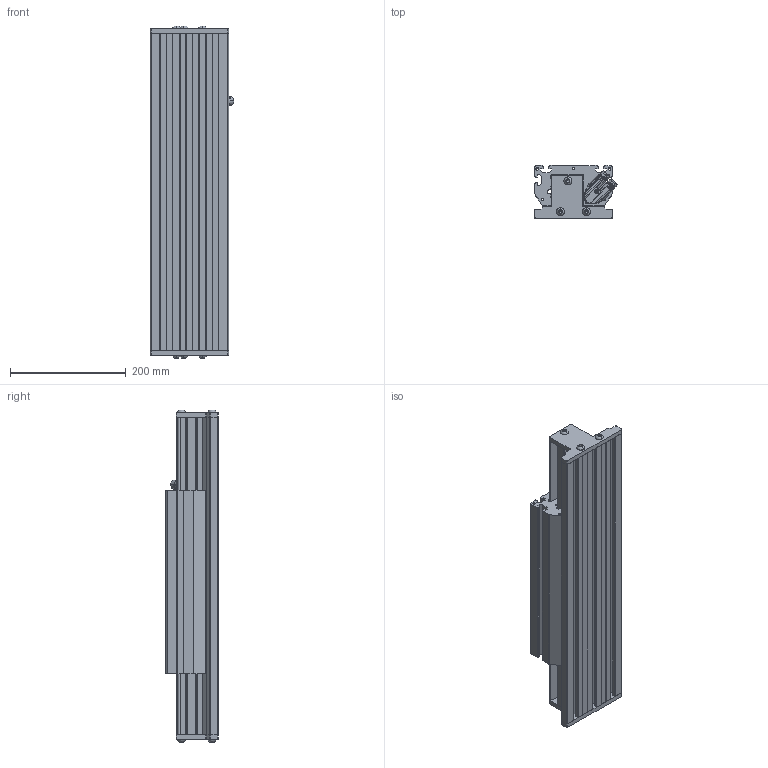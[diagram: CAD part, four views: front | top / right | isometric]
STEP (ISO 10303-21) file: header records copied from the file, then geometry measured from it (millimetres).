
FILE_DESCRIPTION (( 'STEP AP214' ), '1' );
FILE_NAME ('SINADRIVES Linear motor stage MLL20400XS-XX-1-0-ST-00-00564.STEP', '2015-07-06T10:51:31', ( 'Tecnico' ), ( '' ), 'SwSTEP 2.0', 'SolidWorks 2009', '' );
FILE_SCHEMA (( 'AUTOMOTIVE_DESIGN' ));
Length unit declared in the file: millimetre
Products named in the file (7): SINADRIVES PROFILE MLL2XXXX-0548; SINADRIVES CARRIAGE MLL20400XS-1; CARRIAGE MLL20400; Connector power+signal Y-tec 45; SINADRIVES ENDBLOCK MLL2; SINADRIVES ENDBLOCK MLL2-2; SINADRIVES Linear motor stage MLL20400XS-XX-1-0-ST-00-00564
Assembly tree (6 placements, depth 3):
  SINADRIVES Linear motor stage MLL20400XS-XX-1-0-ST-00-00564
    SINADRIVES PROFILE MLL2XXXX-0548
    SINADRIVES ENDBLOCK MLL2-2
    SINADRIVES ENDBLOCK MLL2
    SINADRIVES CARRIAGE MLL20400XS-1
      Connector power+signal Y-tec 45
      CARRIAGE MLL20400
Bounding box: 144.43 x 91 x 572.8 mm (x, y, z)
Volume: 3964367.5 mm3; surface area: 688356.2 mm2
Topology: 2 solids, 42 shells, 950 faces, 2640 edges, 1730 vertices
Faces by surface type: plane 445, cylinder 302, bspline 79, cone 70, torus 42, sphere 12
Entity records: 40587 total; most frequent: CARTESIAN_POINT 8656, ORIENTED_EDGE 5024, DIRECTION 4947, EDGE_CURVE 2622, AXIS2_PLACEMENT_3D 1781, VERTEX_POINT 1730, LINE 1385, VECTOR 1385
